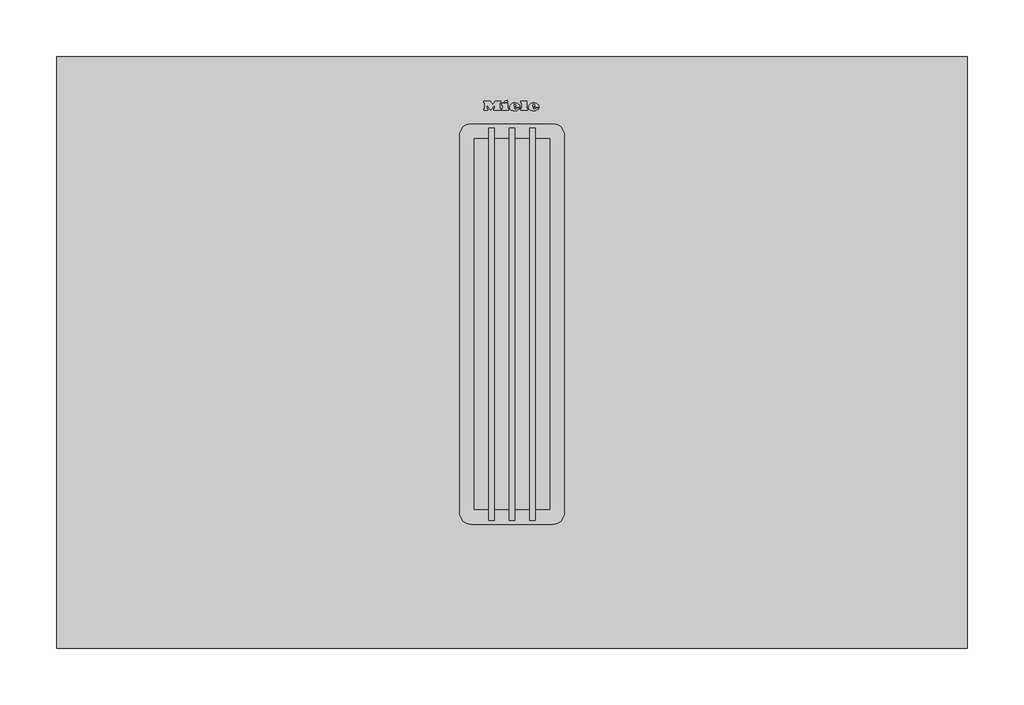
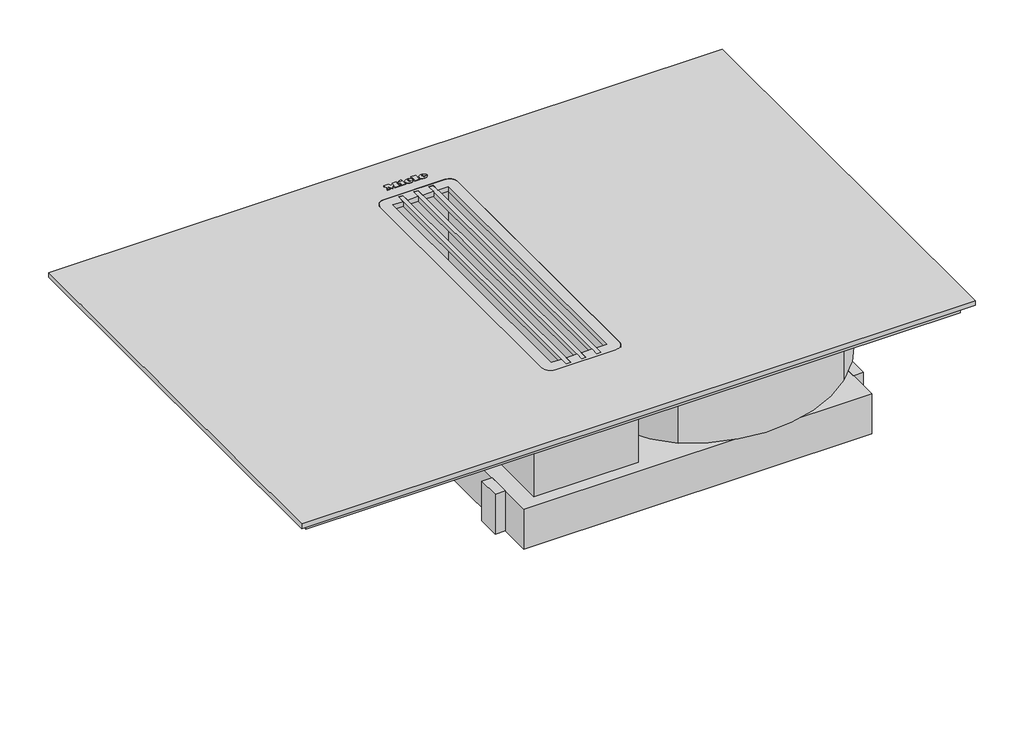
# Not in any storey: 1 proxy.
"""IFC4 building model written with IfcOpenShell, lengths in millimetres."""

from ifc_helpers import new_model, si_unit, origin, place, context, project, spatial, transform, mapped, element, save
from components import specialty_equipment_0ed3b5a2

model = new_model("IFC4")

# Units and contexts
model_context = context("Model", 3, world=origin())
ifc_project = project(units=[si_unit("LENGTHUNIT", "METRE", prefix="MILLI")], contexts=[model_context])

# Site, building
site = spatial("IfcSite", under=ifc_project)
building = spatial("IfcBuilding", under=site)

# Proxy
placement = place(None, origin())
specialty_equipment_shape = specialty_equipment_0ed3b5a2(model_context)
element("IfcBuildingElementProxy", 1, Name="11798830_ROK_KMDA7476FL : 26747672_ROK_11798830_KMDA7476FL", ObjectType="11798830_ROK_KMDA7476FL : 26747672_ROK_11798830_KMDA7476FL", at=placement, inside=building, context=model_context, shape_type="MappedRepresentation", body=[
    mapped(specialty_equipment_shape, transform((0.0, 0.0, 0.0), x_axis=(1.0, 0.0, 0.0), y_axis=(0.0, 1.0, 0.0), z_axis=(0.0, 0.0, 1.0))),
])

save(model, "model.ifc")
